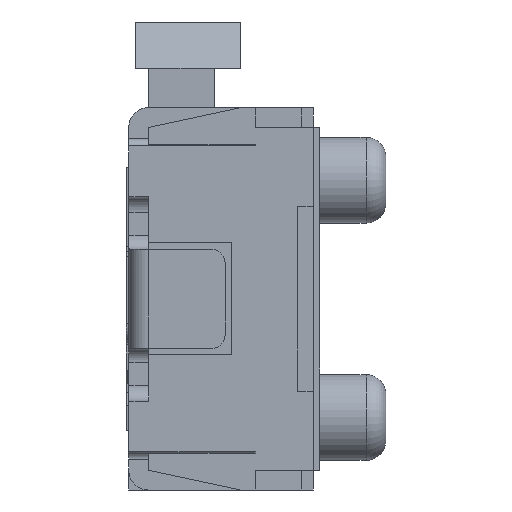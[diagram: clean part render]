
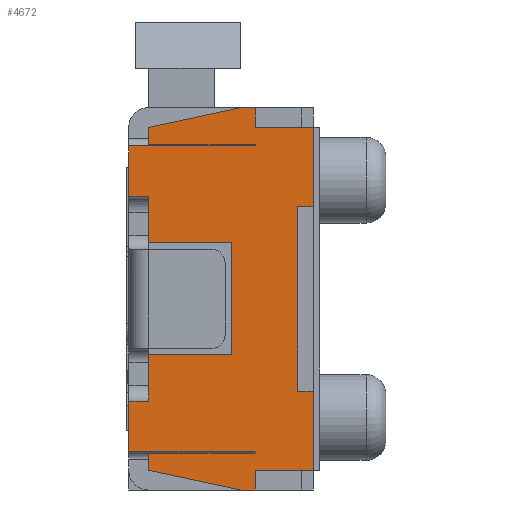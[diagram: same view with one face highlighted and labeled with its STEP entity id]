
A CAD part, left-side view. The second image highlights one B-rep face of the part: STEP entity #4672.
In plain terms, the highlighted planar face has unit normal (-1, 0, 0).
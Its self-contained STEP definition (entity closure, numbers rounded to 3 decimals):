
#41=DIRECTION('',(0.,1.,0.));
#42=VECTOR('',#41,0.44);
#43=CARTESIAN_POINT('',(-1.95,0.05,1.3));
#44=LINE('',#43,#42);
#180=DIRECTION('',(0.,0.,-1.));
#181=VECTOR('',#180,0.385);
#182=CARTESIAN_POINT('',(-1.95,1.45,-0.775));
#183=LINE('',#182,#181);
#342=DIRECTION('',(0.,0.,-1.));
#343=VECTOR('',#342,0.385);
#344=CARTESIAN_POINT('',(-1.95,1.45,1.16));
#345=LINE('',#344,#343);
#590=DIRECTION('',(0.,-1.,0.));
#591=VECTOR('',#590,0.15);
#592=CARTESIAN_POINT('',(-1.95,1.45,0.775));
#593=LINE('',#592,#591);
#598=DIRECTION('',(0.,-1.,0.));
#599=VECTOR('',#598,0.63);
#600=CARTESIAN_POINT('',(-1.95,1.3,-0.425));
#601=LINE('',#600,#599);
#602=DIRECTION('',(0.,0.,1.));
#603=VECTOR('',#602,0.85);
#604=CARTESIAN_POINT('',(-1.95,0.67,-0.425));
#605=LINE('',#604,#603);
#606=DIRECTION('',(0.,1.,0.));
#607=VECTOR('',#606,0.63);
#608=CARTESIAN_POINT('',(-1.95,0.67,0.425));
#609=LINE('',#608,#607);
#610=DIRECTION('',(0.,0.,1.));
#611=VECTOR('',#610,0.35);
#612=CARTESIAN_POINT('',(-1.95,1.3,0.425));
#613=LINE('',#612,#611);
#614=DIRECTION('',(0.,-1.,0.));
#615=VECTOR('',#614,0.96);
#616=CARTESIAN_POINT('',(-1.95,1.45,1.16));
#617=LINE('',#616,#615);
#618=DIRECTION('',(0.,0.,1.));
#619=VECTOR('',#618,0.01);
#620=CARTESIAN_POINT('',(-1.95,0.49,1.16));
#621=LINE('',#620,#619);
#622=DIRECTION('',(0.,1.,0.));
#623=VECTOR('',#622,0.81);
#624=CARTESIAN_POINT('',(-1.95,0.49,1.17));
#625=LINE('',#624,#623);
#626=DIRECTION('',(0.,0.,1.));
#627=VECTOR('',#626,0.13);
#628=CARTESIAN_POINT('',(-1.95,1.3,1.17));
#629=LINE('',#628,#627);
#630=DIRECTION('',(0.,-0.978,0.21));
#631=VECTOR('',#630,0.716);
#632=CARTESIAN_POINT('',(-1.95,1.3,1.3));
#633=LINE('',#632,#631);
#634=DIRECTION('',(0.,0.,-1.));
#635=VECTOR('',#634,0.15);
#636=CARTESIAN_POINT('',(-1.95,0.49,1.45));
#637=LINE('',#636,#635);
#638=DIRECTION('',(0.,0.,-1.));
#639=VECTOR('',#638,0.6);
#640=CARTESIAN_POINT('',(-1.95,0.05,1.3));
#641=LINE('',#640,#639);
#642=DIRECTION('',(0.,1.,0.));
#643=VECTOR('',#642,0.12);
#644=CARTESIAN_POINT('',(-1.95,0.05,0.7));
#645=LINE('',#644,#643);
#646=DIRECTION('',(0.,0.,-1.));
#647=VECTOR('',#646,1.4);
#648=CARTESIAN_POINT('',(-1.95,0.17,0.7));
#649=LINE('',#648,#647);
#650=DIRECTION('',(0.,-1.,0.));
#651=VECTOR('',#650,0.12);
#652=CARTESIAN_POINT('',(-1.95,0.17,-0.7));
#653=LINE('',#652,#651);
#654=DIRECTION('',(0.,0.,-1.));
#655=VECTOR('',#654,0.6);
#656=CARTESIAN_POINT('',(-1.95,0.05,-0.7));
#657=LINE('',#656,#655);
#658=DIRECTION('',(0.,0.,-1.));
#659=VECTOR('',#658,0.15);
#660=CARTESIAN_POINT('',(-1.95,0.49,-1.3));
#661=LINE('',#660,#659);
#662=DIRECTION('',(0.,0.978,0.21));
#663=VECTOR('',#662,0.716);
#664=CARTESIAN_POINT('',(-1.95,0.6,-1.45));
#665=LINE('',#664,#663);
#666=DIRECTION('',(0.,0.,1.));
#667=VECTOR('',#666,0.13);
#668=CARTESIAN_POINT('',(-1.95,1.3,-1.3));
#669=LINE('',#668,#667);
#670=DIRECTION('',(0.,-1.,0.));
#671=VECTOR('',#670,0.81);
#672=CARTESIAN_POINT('',(-1.95,1.3,-1.17));
#673=LINE('',#672,#671);
#674=DIRECTION('',(0.,0.,1.));
#675=VECTOR('',#674,0.01);
#676=CARTESIAN_POINT('',(-1.95,0.49,-1.17));
#677=LINE('',#676,#675);
#678=DIRECTION('',(0.,1.,0.));
#679=VECTOR('',#678,0.96);
#680=CARTESIAN_POINT('',(-1.95,0.49,-1.16));
#681=LINE('',#680,#679);
#682=DIRECTION('',(0.,-1.,0.));
#683=VECTOR('',#682,0.15);
#684=CARTESIAN_POINT('',(-1.95,1.45,-0.775));
#685=LINE('',#684,#683);
#686=DIRECTION('',(0.,0.,1.));
#687=VECTOR('',#686,0.35);
#688=CARTESIAN_POINT('',(-1.95,1.3,-0.775));
#689=LINE('',#688,#687);
#955=DIRECTION('',(0.,1.,0.));
#956=VECTOR('',#955,0.11);
#957=CARTESIAN_POINT('',(-1.95,0.49,1.45));
#958=LINE('',#957,#956);
#1073=DIRECTION('',(0.,-1.,0.));
#1074=VECTOR('',#1073,0.44);
#1075=CARTESIAN_POINT('',(-1.95,0.49,-1.3));
#1076=LINE('',#1075,#1074);
#1182=DIRECTION('',(0.,-1.,0.));
#1183=VECTOR('',#1182,0.11);
#1184=CARTESIAN_POINT('',(-1.95,0.6,-1.45));
#1185=LINE('',#1184,#1183);
#3113=CARTESIAN_POINT('',(-1.95,0.05,1.3));
#3114=VERTEX_POINT('',#3113);
#3115=CARTESIAN_POINT('',(-1.95,0.49,1.3));
#3116=VERTEX_POINT('',#3115);
#3187=CARTESIAN_POINT('',(-1.95,1.45,-0.775));
#3188=VERTEX_POINT('',#3187);
#3189=CARTESIAN_POINT('',(-1.95,1.45,-1.16));
#3190=VERTEX_POINT('',#3189);
#3265=CARTESIAN_POINT('',(-1.95,1.45,1.16));
#3266=VERTEX_POINT('',#3265);
#3267=CARTESIAN_POINT('',(-1.95,1.45,0.775));
#3268=VERTEX_POINT('',#3267);
#3424=CARTESIAN_POINT('',(-1.95,1.3,0.775));
#3425=VERTEX_POINT('',#3424);
#3426=CARTESIAN_POINT('',(-1.95,1.3,-0.425));
#3427=CARTESIAN_POINT('',(-1.95,0.67,-0.425));
#3428=VERTEX_POINT('',#3426);
#3429=VERTEX_POINT('',#3427);
#3430=CARTESIAN_POINT('',(-1.95,0.67,0.425));
#3431=VERTEX_POINT('',#3430);
#3432=CARTESIAN_POINT('',(-1.95,1.3,0.425));
#3433=VERTEX_POINT('',#3432);
#3434=CARTESIAN_POINT('',(-1.95,0.49,1.16));
#3435=VERTEX_POINT('',#3434);
#3436=CARTESIAN_POINT('',(-1.95,0.49,1.17));
#3437=VERTEX_POINT('',#3436);
#3438=CARTESIAN_POINT('',(-1.95,1.3,1.17));
#3439=VERTEX_POINT('',#3438);
#3440=CARTESIAN_POINT('',(-1.95,1.3,1.3));
#3441=VERTEX_POINT('',#3440);
#3442=CARTESIAN_POINT('',(-1.95,0.6,1.45));
#3443=VERTEX_POINT('',#3442);
#3444=CARTESIAN_POINT('',(-1.95,0.49,1.45));
#3445=VERTEX_POINT('',#3444);
#3446=CARTESIAN_POINT('',(-1.95,0.05,0.7));
#3447=VERTEX_POINT('',#3446);
#3448=CARTESIAN_POINT('',(-1.95,0.17,0.7));
#3449=VERTEX_POINT('',#3448);
#3450=CARTESIAN_POINT('',(-1.95,0.17,-0.7));
#3451=VERTEX_POINT('',#3450);
#3452=CARTESIAN_POINT('',(-1.95,0.05,-0.7));
#3453=VERTEX_POINT('',#3452);
#3454=CARTESIAN_POINT('',(-1.95,0.05,-1.3));
#3455=VERTEX_POINT('',#3454);
#3456=CARTESIAN_POINT('',(-1.95,0.49,-1.3));
#3457=VERTEX_POINT('',#3456);
#3458=CARTESIAN_POINT('',(-1.95,0.49,-1.45));
#3459=VERTEX_POINT('',#3458);
#3460=CARTESIAN_POINT('',(-1.95,0.6,-1.45));
#3461=VERTEX_POINT('',#3460);
#3462=CARTESIAN_POINT('',(-1.95,1.3,-1.3));
#3463=VERTEX_POINT('',#3462);
#3464=CARTESIAN_POINT('',(-1.95,1.3,-1.17));
#3465=VERTEX_POINT('',#3464);
#3466=CARTESIAN_POINT('',(-1.95,0.49,-1.17));
#3467=VERTEX_POINT('',#3466);
#3468=CARTESIAN_POINT('',(-1.95,0.49,-1.16));
#3469=VERTEX_POINT('',#3468);
#3470=CARTESIAN_POINT('',(-1.95,1.3,-0.775));
#3471=VERTEX_POINT('',#3470);
#4609=CARTESIAN_POINT('',(-1.95,0.75,0.));
#4610=DIRECTION('',(1.,0.,0.));
#4611=DIRECTION('',(0.,0.,1.));
#4612=AXIS2_PLACEMENT_3D('',#4609,#4610,#4611);
#4613=PLANE('',#4612);
#4615=ORIENTED_EDGE('',*,*,#4614,.T.);
#4617=ORIENTED_EDGE('',*,*,#4616,.T.);
#4619=ORIENTED_EDGE('',*,*,#4618,.T.);
#4621=ORIENTED_EDGE('',*,*,#4620,.T.);
#4622=ORIENTED_EDGE('',*,*,#4601,.F.);
#4623=ORIENTED_EDGE('',*,*,#4373,.F.);
#4625=ORIENTED_EDGE('',*,*,#4624,.T.);
#4627=ORIENTED_EDGE('',*,*,#4626,.T.);
#4629=ORIENTED_EDGE('',*,*,#4628,.T.);
#4631=ORIENTED_EDGE('',*,*,#4630,.T.);
#4633=ORIENTED_EDGE('',*,*,#4632,.T.);
#4635=ORIENTED_EDGE('',*,*,#4634,.F.);
#4637=ORIENTED_EDGE('',*,*,#4636,.T.);
#4638=ORIENTED_EDGE('',*,*,#4100,.F.);
#4640=ORIENTED_EDGE('',*,*,#4639,.T.);
#4642=ORIENTED_EDGE('',*,*,#4641,.T.);
#4644=ORIENTED_EDGE('',*,*,#4643,.T.);
#4646=ORIENTED_EDGE('',*,*,#4645,.T.);
#4648=ORIENTED_EDGE('',*,*,#4647,.T.);
#4650=ORIENTED_EDGE('',*,*,#4649,.F.);
#4652=ORIENTED_EDGE('',*,*,#4651,.T.);
#4654=ORIENTED_EDGE('',*,*,#4653,.F.);
#4656=ORIENTED_EDGE('',*,*,#4655,.T.);
#4658=ORIENTED_EDGE('',*,*,#4657,.T.);
#4660=ORIENTED_EDGE('',*,*,#4659,.T.);
#4662=ORIENTED_EDGE('',*,*,#4661,.T.);
#4664=ORIENTED_EDGE('',*,*,#4663,.T.);
#4665=ORIENTED_EDGE('',*,*,#4287,.F.);
#4667=ORIENTED_EDGE('',*,*,#4666,.T.);
#4669=ORIENTED_EDGE('',*,*,#4668,.T.);
#4670=EDGE_LOOP('',(#4615,#4617,#4619,#4621,#4622,#4623,#4625,#4627,#4629,#4631,
#4633,#4635,#4637,#4638,#4640,#4642,#4644,#4646,#4648,#4650,#4652,#4654,#4656,
#4658,#4660,#4662,#4664,#4665,#4667,#4669));
#4671=FACE_OUTER_BOUND('',#4670,.F.);
#4100=EDGE_CURVE('',#3114,#3116,#44,.T.);
#4287=EDGE_CURVE('',#3188,#3190,#183,.T.);
#4373=EDGE_CURVE('',#3266,#3268,#345,.T.);
#4601=EDGE_CURVE('',#3268,#3425,#593,.T.);
#4614=EDGE_CURVE('',#3428,#3429,#601,.T.);
#4616=EDGE_CURVE('',#3429,#3431,#605,.T.);
#4618=EDGE_CURVE('',#3431,#3433,#609,.T.);
#4620=EDGE_CURVE('',#3433,#3425,#613,.T.);
#4624=EDGE_CURVE('',#3266,#3435,#617,.T.);
#4626=EDGE_CURVE('',#3435,#3437,#621,.T.);
#4628=EDGE_CURVE('',#3437,#3439,#625,.T.);
#4630=EDGE_CURVE('',#3439,#3441,#629,.T.);
#4632=EDGE_CURVE('',#3441,#3443,#633,.T.);
#4634=EDGE_CURVE('',#3445,#3443,#958,.T.);
#4636=EDGE_CURVE('',#3445,#3116,#637,.T.);
#4639=EDGE_CURVE('',#3114,#3447,#641,.T.);
#4641=EDGE_CURVE('',#3447,#3449,#645,.T.);
#4643=EDGE_CURVE('',#3449,#3451,#649,.T.);
#4645=EDGE_CURVE('',#3451,#3453,#653,.T.);
#4647=EDGE_CURVE('',#3453,#3455,#657,.T.);
#4649=EDGE_CURVE('',#3457,#3455,#1076,.T.);
#4651=EDGE_CURVE('',#3457,#3459,#661,.T.);
#4653=EDGE_CURVE('',#3461,#3459,#1185,.T.);
#4655=EDGE_CURVE('',#3461,#3463,#665,.T.);
#4657=EDGE_CURVE('',#3463,#3465,#669,.T.);
#4659=EDGE_CURVE('',#3465,#3467,#673,.T.);
#4661=EDGE_CURVE('',#3467,#3469,#677,.T.);
#4663=EDGE_CURVE('',#3469,#3190,#681,.T.);
#4666=EDGE_CURVE('',#3188,#3471,#685,.T.);
#4668=EDGE_CURVE('',#3471,#3428,#689,.T.);
#4672=ADVANCED_FACE('',(#4671),#4613,.F.);
